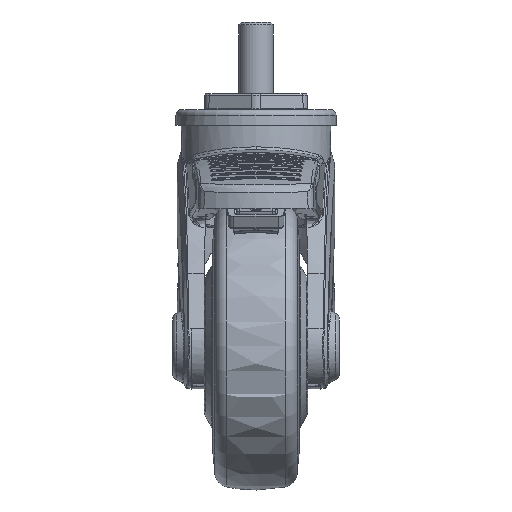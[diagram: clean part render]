
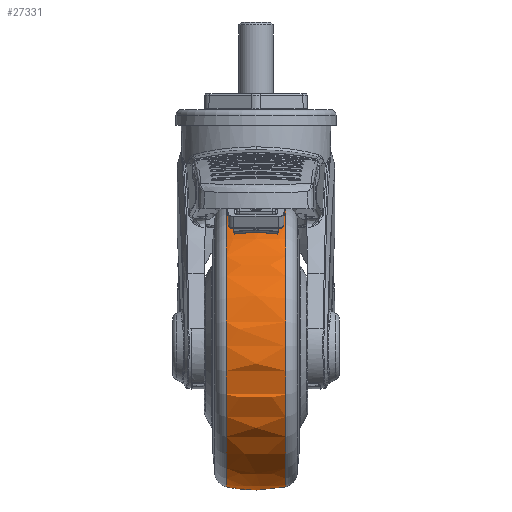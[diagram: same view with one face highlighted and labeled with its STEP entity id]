
A CAD part, front view. The second image highlights one B-rep face of the part: STEP entity #27331.
In plain terms, the highlighted spherical face has radius 50 mm.
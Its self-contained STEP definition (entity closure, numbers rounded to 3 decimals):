
#57=SPHERICAL_SURFACE('',#29336,50.);
#436=FACE_BOUND('',#6702,.T.);
#4982=FACE_OUTER_BOUND('',#6701,.T.);
#6701=EDGE_LOOP('',(#24748,#24749,#24750,#24751,#24752,#24753,#24754));
#6702=EDGE_LOOP('',(#24755,#24756));
#7651=CIRCLE('',#29332,48.918);
#7652=CIRCLE('',#29333,48.918);
#7653=CIRCLE('',#29334,48.918);
#7655=CIRCLE('',#29337,50.);
#7656=CIRCLE('',#29338,50.);
#7657=CIRCLE('',#29339,48.918);
#7658=CIRCLE('',#29340,48.918);
#12134=VERTEX_POINT('',#102170);
#12135=VERTEX_POINT('',#102171);
#12136=VERTEX_POINT('',#102173);
#12137=VERTEX_POINT('',#102178);
#12138=VERTEX_POINT('',#102180);
#12139=VERTEX_POINT('',#102182);
#12140=VERTEX_POINT('',#102183);
#16344=EDGE_CURVE('',#12134,#12135,#7651,.T.);
#16345=EDGE_CURVE('',#12136,#12134,#7652,.T.);
#16346=EDGE_CURVE('',#12135,#12136,#7653,.T.);
#16348=EDGE_CURVE('',#12137,#12135,#7655,.T.);
#16349=EDGE_CURVE('',#12136,#12138,#7656,.T.);
#16350=EDGE_CURVE('',#12139,#12140,#7657,.T.);
#16351=EDGE_CURVE('',#12140,#12139,#7658,.T.);
#24748=ORIENTED_EDGE('',*,*,#16344,.T.);
#24749=ORIENTED_EDGE('',*,*,#16348,.F.);
#24750=ORIENTED_EDGE('',*,*,#16348,.T.);
#24751=ORIENTED_EDGE('',*,*,#16346,.T.);
#24752=ORIENTED_EDGE('',*,*,#16349,.T.);
#24753=ORIENTED_EDGE('',*,*,#16349,.F.);
#24754=ORIENTED_EDGE('',*,*,#16345,.T.);
#24755=ORIENTED_EDGE('',*,*,#16350,.F.);
#24756=ORIENTED_EDGE('',*,*,#16351,.F.);
#27331=ADVANCED_FACE('',(#4982,#436),#57,.T.);
#29332=AXIS2_PLACEMENT_3D('',#102172,#34389,#34390);
#29333=AXIS2_PLACEMENT_3D('',#102174,#34391,#34392);
#29334=AXIS2_PLACEMENT_3D('',#102175,#34393,#34394);
#29336=AXIS2_PLACEMENT_3D('',#102177,#34397,#34398);
#29337=AXIS2_PLACEMENT_3D('',#102179,#34399,#34400);
#29338=AXIS2_PLACEMENT_3D('',#102181,#34401,#34402);
#29339=AXIS2_PLACEMENT_3D('',#102184,#34403,#34404);
#29340=AXIS2_PLACEMENT_3D('',#102185,#34405,#34406);
#34389=DIRECTION('center_axis',(1.,0.,0.));
#34390=DIRECTION('ref_axis',(0.,0.,
1.));
#34391=DIRECTION('center_axis',(1.,0.,0.));
#34392=DIRECTION('ref_axis',(0.,0.,
1.));
#34393=DIRECTION('center_axis',(1.,0.,0.));
#34394=DIRECTION('ref_axis',(0.,0.,
1.));
#34397=DIRECTION('center_axis',(0.,0.,
-1.));
#34398=DIRECTION('ref_axis',(1.,0.,0.));
#34399=DIRECTION('center_axis',(0.,1.,0.));
#34400=DIRECTION('ref_axis',(-1.,0.,0.));
#34401=DIRECTION('center_axis',(0.,1.,0.));
#34402=DIRECTION('ref_axis',(-1.,0.,0.));
#34403=DIRECTION('center_axis',(1.,0.,0.));
#34404=DIRECTION('ref_axis',(0.,0.,
1.));
#34405=DIRECTION('center_axis',(1.,0.,0.));
#34406=DIRECTION('ref_axis',(0.,0.,
1.));
#102170=CARTESIAN_POINT('',(-10.345,-88.918,-88.));
#102171=CARTESIAN_POINT('',(-10.345,-40.,-136.918));
#102172=CARTESIAN_POINT('Origin',(-10.345,-40.,-88.));
#102173=CARTESIAN_POINT('',(-10.345,-40.,-39.082));
#102174=CARTESIAN_POINT('Origin',(-10.345,-40.,-88.));
#102175=CARTESIAN_POINT('Origin',(-10.345,-40.,-88.));
#102177=CARTESIAN_POINT('Origin',(0.,-40.,
-88.));
#102178=CARTESIAN_POINT('',(0.,-40.,-138.));
#102179=CARTESIAN_POINT('Origin',(0.,-40.,
-88.));
#102180=CARTESIAN_POINT('',(0.,-40.,-38.));
#102181=CARTESIAN_POINT('Origin',(0.,-40.,
-88.));
#102182=CARTESIAN_POINT('',(10.345,-88.918,-88.));
#102183=CARTESIAN_POINT('',(10.345,-40.,-136.918));
#102184=CARTESIAN_POINT('Origin',(10.345,-40.,-88.));
#102185=CARTESIAN_POINT('Origin',(10.345,-40.,-88.));
